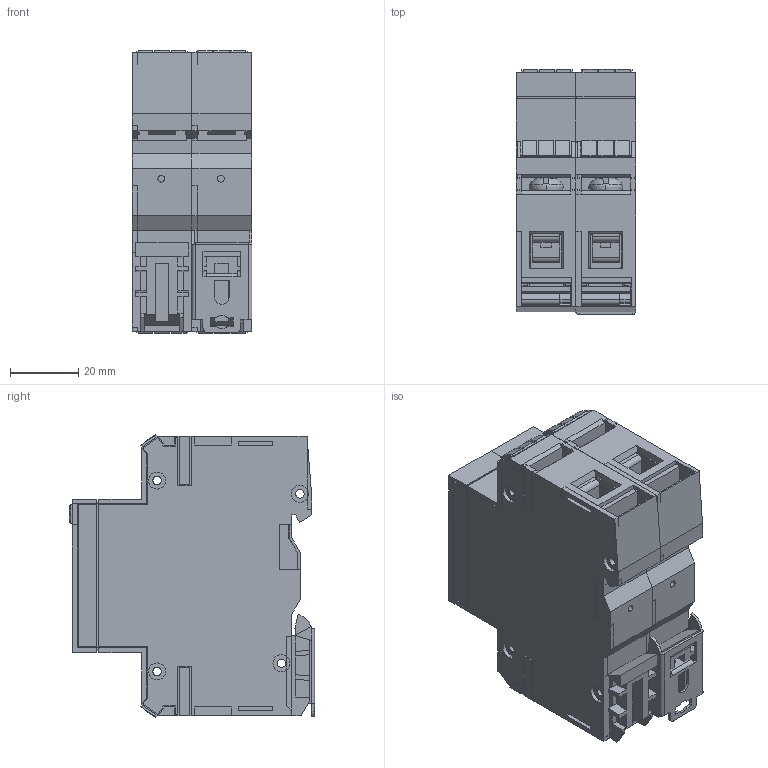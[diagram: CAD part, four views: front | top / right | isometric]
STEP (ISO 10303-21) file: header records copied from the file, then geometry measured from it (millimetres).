
FILE_DESCRIPTION (( 'STEP AP214' ), '1' );
FILE_NAME ('OptiIDn OMu 2 瀁錌黟.STEP', '2022-12-06T11:27:41', ( '' ), ( '' ), 'SwSTEP 2.0', 'SolidWorks 2018', '' );
FILE_SCHEMA (( 'AUTOMOTIVE_DESIGN' ));
Length unit declared in the file: millimetre
Products named in the file (16): 暑痫篑 镳噔 矬耱铋; Çàãëóøêà ìîäóëÿ Ë 50-084; Ìåòêà 21-086; Âûâîä 53-027 îáðåçàíûé äëÿ ñàéòà; Ïåðåìû÷êà 03-025; ﾈ淸韭瑣ⅱ 01; Êîðïóñ ëåâûé ïóñòîé; Êîëîäêà 03-039 ïîä íîâûé ãàáàðèòû; Çàùåëêà 11-010; 鎔艜 03-024; 恟u 瀀嚦鍣_22; Çàãëóøêà ìîäóëÿ Ï 50-083; OptiIDn OMu 2 瀁錌黟; 恟u 瀀嚦鍣_21
Assembly tree (32 placements, depth 3):
  OptiIDn OMu 2 瀁錌黟
    Ïåðåìû÷êà 03-025
    恟u 瀀嚦鍣_21
      Êîðïóñ ëåâûé ïóñòîé
      ﾈ淸韭瑣ⅱ 01
      暑痫篑 镳噔 矬耱铋
      Çàùåëêà 11-010
      Çàãëóøêà ìîäóëÿ Ë 50-084
      Çàãëóøêà ìîäóëÿ Ï 50-083
      Ìåòêà 21-086  x3
      Âûâîä 53-027 îáðåçàíûé äëÿ ñàéòà  x2
      鎔艜 03-024  x2
      Êîëîäêà 03-039 ïîä íîâûé ãàáàðèòû  x2
    恟u 瀀嚦鍣_22
      Êîðïóñ ëåâûé ïóñòîé
      ﾈ淸韭瑣ⅱ 01
      暑痫篑 镳噔 矬耱铋
      Çàãëóøêà ìîäóëÿ Ë 50-084
      Çàãëóøêà ìîäóëÿ Ï 50-083
      Ìåòêà 21-086  x3
      Âûâîä 53-027 îáðåçàíûé äëÿ ñàéòà  x2
      鎔艜 03-024  x2
      Êîëîäêà 03-039 ïîä íîâûé ãàáàðèòû  x2
Bounding box: 35.05 x 71.88 x 82.87 mm (x, y, z)
Volume: 141106.2 mm3; surface area: 76172.5 mm2
Topology: 30 solids, 30 shells, 2537 faces, 6939 edges, 4500 vertices
Faces by surface type: plane 1982, cylinder 537, torus 16, cone 2
Entity records: 44583 total; most frequent: CARTESIAN_POINT 7803, ORIENTED_EDGE 7658, DIRECTION 7195, EDGE_CURVE 3829, VECTOR 3303, LINE 3303, VERTEX_POINT 2490, AXIS2_PLACEMENT_3D 1946
